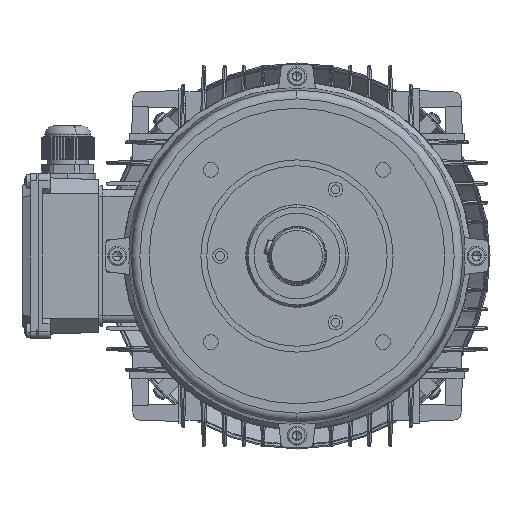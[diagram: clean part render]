
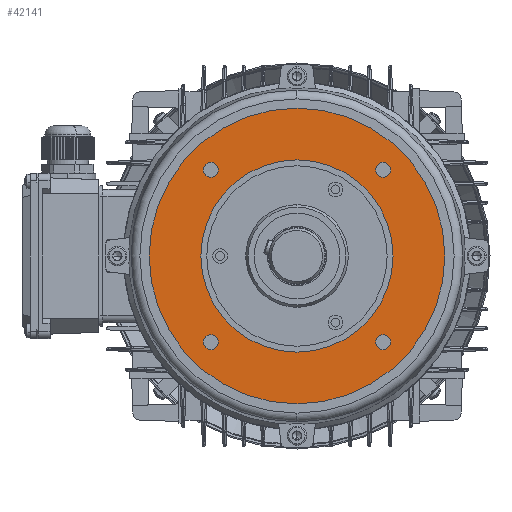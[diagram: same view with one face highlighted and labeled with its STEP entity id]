
A CAD part, left-side view. The second image highlights one B-rep face of the part: STEP entity #42141.
In plain terms, the highlighted planar face has unit normal (-1, 0, 0).
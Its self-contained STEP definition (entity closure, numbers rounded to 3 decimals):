
#720 = EDGE_CURVE ( 'NONE', #157378, #59321, #26915, .T. ) ;
#1121 = DIRECTION ( 'NONE',  ( 1., 0., 0. ) ) ;
#2020 = ORIENTED_EDGE ( 'NONE', *, *, #720, .T. ) ;
#3174 = ORIENTED_EDGE ( 'NONE', *, *, #171532, .T. ) ;
#4015 = DIRECTION ( 'NONE',  ( 0., 0., -1. ) ) ;
#4780 = EDGE_LOOP ( 'NONE', ( #95755, #7007 ) ) ;
#5160 = DIRECTION ( 'NONE',  ( 0., 0., 1. ) ) ;
#7007 = ORIENTED_EDGE ( 'NONE', *, *, #39655, .T. ) ;
#7484 = AXIS2_PLACEMENT_3D ( 'NONE', #86335, #82062, #63970 ) ;
#11378 = CARTESIAN_POINT ( 'NONE',  ( 3.5, 65., 0. ) ) ;
#13978 = CARTESIAN_POINT ( 'NONE',  ( 3.5, 58.336, -63.336 ) ) ;
#14387 = DIRECTION ( 'NONE',  ( -1., 0., 0. ) ) ;
#15029 = CIRCLE ( 'NONE', #105753, 5. ) ;
#16073 = CARTESIAN_POINT ( 'NONE',  ( 3.5, -58.336, 53.336 ) ) ;
#17488 = AXIS2_PLACEMENT_3D ( 'NONE', #61065, #43019, #24868 ) ;
#20183 = CARTESIAN_POINT ( 'NONE',  ( 3.5, 58.336, -53.336 ) ) ;
#21927 = CARTESIAN_POINT ( 'NONE',  ( 3.5, 58.336, 53.336 ) ) ;
#22022 = DIRECTION ( 'NONE',  ( 1., 0., 0. ) ) ;
#22238 = CARTESIAN_POINT ( 'NONE',  ( 3.5, -58.336, 58.336 ) ) ;
#22772 = CARTESIAN_POINT ( 'NONE',  ( 3.5, 0., 65. ) ) ;
#23151 = DIRECTION ( 'NONE',  ( -1., 0., 0. ) ) ;
#24868 = DIRECTION ( 'NONE',  ( 0., 0., 1. ) ) ;
#24934 = VERTEX_POINT ( 'NONE', #134497 ) ;
#26915 = CIRCLE ( 'NONE', #17488, 100. ) ;
#28965 = FACE_BOUND ( 'NONE', #59071, .T. ) ;
#29952 = CIRCLE ( 'NONE', #107583, 65. ) ;
#32456 = CARTESIAN_POINT ( 'NONE',  ( 3.5, 0., 0. ) ) ;
#33764 = VERTEX_POINT ( 'NONE', #111936 ) ;
#39655 = EDGE_CURVE ( 'NONE', #113359, #124657, #15029, .T. ) ;
#41271 = CARTESIAN_POINT ( 'NONE',  ( 3.5, 0., 0. ) ) ;
#42141 = ADVANCED_FACE ( 'NONE', ( #74533, #88181, #97298, #28965, #110913, #119960 ), #47571, .F. ) ;
#43019 = DIRECTION ( 'NONE',  ( -1., 0., 0. ) ) ;
#43929 = EDGE_CURVE ( 'NONE', #117453, #24934, #129164, .T. ) ;
#45098 = AXIS2_PLACEMENT_3D ( 'NONE', #166395, #94099, #76055 ) ;
#47571 = PLANE ( 'NONE',  #92692 ) ;
#47684 = ORIENTED_EDGE ( 'NONE', *, *, #74287, .T. ) ;
#56336 = CARTESIAN_POINT ( 'NONE',  ( 3.5, -58.336, 63.336 ) ) ;
#59071 = EDGE_LOOP ( 'NONE', ( #135246, #47684 ) ) ;
#59321 = VERTEX_POINT ( 'NONE', #104934 ) ;
#61065 = CARTESIAN_POINT ( 'NONE',  ( 3.5, 0., 0. ) ) ;
#61240 = CIRCLE ( 'NONE', #45098, 5. ) ;
#62436 = CARTESIAN_POINT ( 'NONE',  ( 3.5, -58.336, -58.336 ) ) ;
#63227 = AXIS2_PLACEMENT_3D ( 'NONE', #160665, #142617, #124538 ) ;
#63970 = DIRECTION ( 'NONE',  ( 0., 0., -1. ) ) ;
#65198 = EDGE_CURVE ( 'NONE', #68377, #160152, #91930, .T. ) ;
#68377 = VERTEX_POINT ( 'NONE', #20183 ) ;
#68789 = ORIENTED_EDGE ( 'NONE', *, *, #163149, .T. ) ;
#73234 = EDGE_CURVE ( 'NONE', #110896, #89811, #29952, .T. ) ;
#74287 = EDGE_CURVE ( 'NONE', #24934, #117453, #152875, .T. ) ;
#74533 = FACE_BOUND ( 'NONE', #4780, .T. ) ;
#75532 = CIRCLE ( 'NONE', #7484, 5. ) ;
#76055 = DIRECTION ( 'NONE',  ( 0., 0., -1. ) ) ;
#78142 = ORIENTED_EDGE ( 'NONE', *, *, #150900, .T. ) ;
#82062 = DIRECTION ( 'NONE',  ( 1., 0., 0. ) ) ;
#82709 = DIRECTION ( 'NONE',  ( 0., 0., -1. ) ) ;
#86335 = CARTESIAN_POINT ( 'NONE',  ( 3.5, 58.336, -58.336 ) ) ;
#87541 = EDGE_LOOP ( 'NONE', ( #124781, #150234 ) ) ;
#88181 = FACE_BOUND ( 'NONE', #96558, .T. ) ;
#89532 = AXIS2_PLACEMENT_3D ( 'NONE', #146677, #128619, #110567 ) ;
#89811 = VERTEX_POINT ( 'NONE', #121328 ) ;
#91930 = CIRCLE ( 'NONE', #63227, 5. ) ;
#92692 = AXIS2_PLACEMENT_3D ( 'NONE', #11378, #169743, #151658 ) ;
#94099 = DIRECTION ( 'NONE',  ( 1., 0., 0. ) ) ;
#95755 = ORIENTED_EDGE ( 'NONE', *, *, #138412, .T. ) ;
#96546 = ORIENTED_EDGE ( 'NONE', *, *, #65198, .T. ) ;
#96558 = EDGE_LOOP ( 'NONE', ( #68789, #160877 ) ) ;
#97298 = FACE_BOUND ( 'NONE', #116826, .T. ) ;
#98493 = CIRCLE ( 'NONE', #160560, 100. ) ;
#100776 = DIRECTION ( 'NONE',  ( 1., 0., 0. ) ) ;
#103433 = VERTEX_POINT ( 'NONE', #143722 ) ;
#103880 = CARTESIAN_POINT ( 'NONE',  ( 3.5, 0., -100. ) ) ;
#104934 = CARTESIAN_POINT ( 'NONE',  ( 3.5, 0., 100. ) ) ;
#105629 = CIRCLE ( 'NONE', #172397, 5. ) ;
#105753 = AXIS2_PLACEMENT_3D ( 'NONE', #22238, #162511, #144438 ) ;
#107583 = AXIS2_PLACEMENT_3D ( 'NONE', #41271, #23151, #5160 ) ;
#109141 = EDGE_CURVE ( 'NONE', #103433, #33764, #105629, .T. ) ;
#109491 = CARTESIAN_POINT ( 'NONE',  ( 3.5, 58.336, 58.336 ) ) ;
#110567 = DIRECTION ( 'NONE',  ( 0., 0., -1. ) ) ;
#110896 = VERTEX_POINT ( 'NONE', #22772 ) ;
#110913 = FACE_BOUND ( 'NONE', #87541, .T. ) ;
#111936 = CARTESIAN_POINT ( 'NONE',  ( 3.5, -58.336, -63.336 ) ) ;
#113359 = VERTEX_POINT ( 'NONE', #56336 ) ;
#116826 = EDGE_LOOP ( 'NONE', ( #3174, #96546 ) ) ;
#117453 = VERTEX_POINT ( 'NONE', #21927 ) ;
#118742 = CARTESIAN_POINT ( 'NONE',  ( 3.5, -58.336, -58.336 ) ) ;
#119072 = AXIS2_PLACEMENT_3D ( 'NONE', #62436, #22022, #4015 ) ;
#119960 = FACE_OUTER_BOUND ( 'NONE', #151753, .T. ) ;
#121328 = CARTESIAN_POINT ( 'NONE',  ( 3.5, 0., -65. ) ) ;
#124538 = DIRECTION ( 'NONE',  ( 0., 0., -1. ) ) ;
#124657 = VERTEX_POINT ( 'NONE', #16073 ) ;
#124760 = CIRCLE ( 'NONE', #119072, 5. ) ;
#124781 = ORIENTED_EDGE ( 'NONE', *, *, #73234, .F. ) ;
#128619 = DIRECTION ( 'NONE',  ( 1., 0., 0. ) ) ;
#129164 = CIRCLE ( 'NONE', #150968, 5. ) ;
#133918 = AXIS2_PLACEMENT_3D ( 'NONE', #32456, #14387, #172717 ) ;
#134497 = CARTESIAN_POINT ( 'NONE',  ( 3.5, 58.336, 63.336 ) ) ;
#135203 = DIRECTION ( 'NONE',  ( 0., 0., 1. ) ) ;
#135246 = ORIENTED_EDGE ( 'NONE', *, *, #43929, .T. ) ;
#138412 = EDGE_CURVE ( 'NONE', #124657, #113359, #61240, .T. ) ;
#138573 = CIRCLE ( 'NONE', #133918, 65. ) ;
#142617 = DIRECTION ( 'NONE',  ( 1., 0., 0. ) ) ;
#143722 = CARTESIAN_POINT ( 'NONE',  ( 3.5, -58.336, -53.336 ) ) ;
#144438 = DIRECTION ( 'NONE',  ( 0., 0., -1. ) ) ;
#146677 = CARTESIAN_POINT ( 'NONE',  ( 3.5, 58.336, 58.336 ) ) ;
#150234 = ORIENTED_EDGE ( 'NONE', *, *, #163468, .F. ) ;
#150900 = EDGE_CURVE ( 'NONE', #59321, #157378, #98493, .T. ) ;
#150968 = AXIS2_PLACEMENT_3D ( 'NONE', #109491, #1121, #159416 ) ;
#151658 = DIRECTION ( 'NONE',  ( 0., 0., -1. ) ) ;
#151753 = EDGE_LOOP ( 'NONE', ( #78142, #2020 ) ) ;
#152875 = CIRCLE ( 'NONE', #89532, 5. ) ;
#153317 = DIRECTION ( 'NONE',  ( -1., 0., 0. ) ) ;
#157378 = VERTEX_POINT ( 'NONE', #103880 ) ;
#159416 = DIRECTION ( 'NONE',  ( 0., 0., -1. ) ) ;
#160152 = VERTEX_POINT ( 'NONE', #13978 ) ;
#160560 = AXIS2_PLACEMENT_3D ( 'NONE', #171380, #153317, #135203 ) ;
#160665 = CARTESIAN_POINT ( 'NONE',  ( 3.5, 58.336, -58.336 ) ) ;
#160877 = ORIENTED_EDGE ( 'NONE', *, *, #109141, .T. ) ;
#162511 = DIRECTION ( 'NONE',  ( 1., 0., 0. ) ) ;
#163149 = EDGE_CURVE ( 'NONE', #33764, #103433, #124760, .T. ) ;
#163468 = EDGE_CURVE ( 'NONE', #89811, #110896, #138573, .T. ) ;
#166395 = CARTESIAN_POINT ( 'NONE',  ( 3.5, -58.336, 58.336 ) ) ;
#169743 = DIRECTION ( 'NONE',  ( 1., 0., 0. ) ) ;
#171380 = CARTESIAN_POINT ( 'NONE',  ( 3.5, 0., 0. ) ) ;
#171532 = EDGE_CURVE ( 'NONE', #160152, #68377, #75532, .T. ) ;
#172397 = AXIS2_PLACEMENT_3D ( 'NONE', #118742, #100776, #82709 ) ;
#172717 = DIRECTION ( 'NONE',  ( 0., 0., 1. ) ) ;
